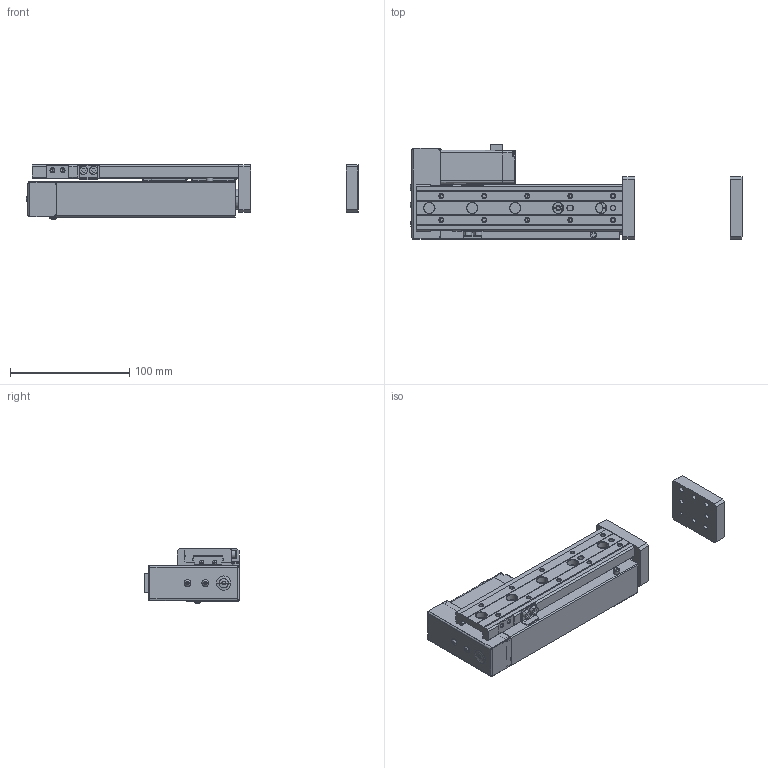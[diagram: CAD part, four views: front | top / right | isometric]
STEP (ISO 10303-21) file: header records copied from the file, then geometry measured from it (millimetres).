
FILE_DESCRIPTION (( 'STEP AP203' ), '1' );
FILE_NAME ('CSS12R-xx-90-xx-CSO-xx-xx.STEP', '2024-10-18T06:40:04', ( 'Windows User' ), ( 'P R C' ), 'SwSTEP 2.0', 'SolidWorks 2018', '' );
FILE_SCHEMA (( 'CONFIG_CONTROL_DESIGN' ));
Length unit declared in the file: millimetre
Products named in the file (17): 复件 RB-ES23002-B002-05  BLOCK（MXQ12-75,100滑块）^SS12R-1.5-90（客用）; CSS12R-xx-90-xx-CSO-xx-xx; 复件 RB-ES23002-B002-05  RAIL（MXQ12-100滑台）^SS12R-1.5-90（客用）; 复件 MOTOR PLATE^SS12R-1.5-90（客用）; 复件 内六角杯头螺钉M3-6^SS12R-1.5-90（客用）; 复件 COVER END^SS12R-1.5-90（客用）; 复件 SVS-23RB12SL-B010  堵头塞子（φ8宽边带槽型）^SS12R-1.5-90（客用）; 复件 内六角杯头螺钉M4-10^SS12R-1.5-90（客用）; 复件 内六角杯头螺钉M4-12^SS12R-1.5-90（客用）; 复件 内六角圆头螺钉M3^SS12R-1.5-90（客用）; 复件 SVS-23RB12SL-P007-01  限位块^SS12R-1.5-90（客用）; 复件 RB-ES23002-P001-10  FRAME（右折，ST=90）^SS12R-1.5-90（客用）; 复件 RB-ES23002-P002-02  安装板（右折）^SS12R-1.5-90（客用）; 复件 (2) 28闭环步进电机-客用3D^SS12R-1.5-90（客用）; 复件 内六角杯头螺钉M4-8^SS12R-1.5-90（客用）; 复件 RB-ES23002-P006  连接件^SS12R-1.5-90（客用）; 复件 十字槽盘头螺钉YM3-6^SS12R-1.5-90（客用）
Assembly tree (22 placements, depth 2):
  CSS12R-xx-90-xx-CSO-xx-xx
    复件 RB-ES23002-P001-10  FRAME（右折，ST=90）^SS12R-1.5-90（客用）
    复件 RB-ES23002-P002-02  安装板（右折）^SS12R-1.5-90（客用）  x2
    复件 RB-ES23002-P006  连接件^SS12R-1.5-90（客用）
    复件 RB-ES23002-B002-05  RAIL（MXQ12-100滑台）^SS12R-1.5-90（客用）
    复件 RB-ES23002-B002-05  BLOCK（MXQ12-75,100滑块）^SS12R-1.5-90（客用）  x2
    复件 内六角杯头螺钉M4-12^SS12R-1.5-90（客用）  x2
    复件 内六角杯头螺钉M3-6^SS12R-1.5-90（客用）  x2
    复件 内六角杯头螺钉M4-10^SS12R-1.5-90（客用）
    复件 十字槽盘头螺钉YM3-6^SS12R-1.5-90（客用）
    复件 内六角杯头螺钉M4-8^SS12R-1.5-90（客用）  x2
    复件 SVS-23RB12SL-B010  堵头塞子（φ8宽边带槽型）^SS12R-1.5-90（客用）
    复件 SVS-23RB12SL-P007-01  限位块^SS12R-1.5-90（客用）
    复件 (2) 28闭环步进电机-客用3D^SS12R-1.5-90（客用）
    复件 COVER END^SS12R-1.5-90（客用）
    复件 MOTOR PLATE^SS12R-1.5-90（客用）
    复件 内六角圆头螺钉M3^SS12R-1.5-90（客用）  x2
Bounding box: 278.15 x 79.95 x 46.03 mm (x, y, z)
Volume: 370649.9 mm3; surface area: 105401.8 mm2
Topology: 84 solids, 84 shells, 1925 faces, 4839 edges, 2897 vertices
Faces by surface type: plane 825, cylinder 516, cone 388, bspline 156, torus 34, sphere 6
Entity records: 42407 total; most frequent: CARTESIAN_POINT 11252, DIRECTION 6187, ORIENTED_EDGE 5946, EDGE_CURVE 2973, AXIS2_PLACEMENT_3D 2247, VERTEX_POINT 1873, LINE 1693, VECTOR 1693
